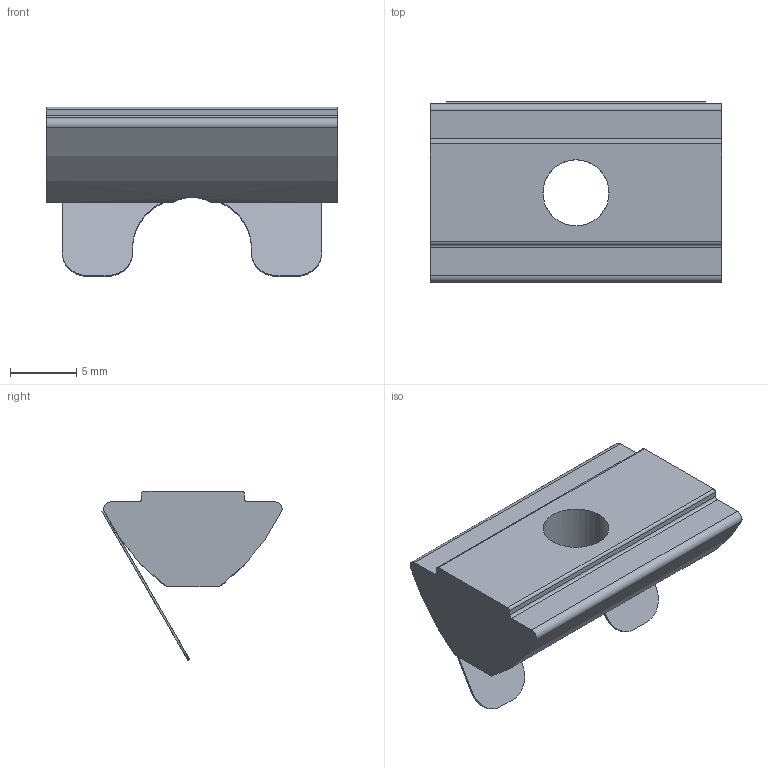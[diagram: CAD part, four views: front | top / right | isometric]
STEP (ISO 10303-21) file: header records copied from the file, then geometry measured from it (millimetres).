
FILE_DESCRIPTION (( 'STEP AP203' ), '1' );
FILE_NAME ('0108NSM6STF.STEP', '2024-03-05T09:08:59', ( 'Windows-Benutzer' ), ( '' ), 'SwSTEP 2.0', 'SolidWorks 2023', '' );
FILE_SCHEMA (( 'CONFIG_CONTROL_DESIGN' ));
Length unit declared in the file: millimetre
Products named in the file (1): 0108NSM6STF
Bounding box: 22 x 13.63 x 12.8 mm (x, y, z)
Volume: 1422.3 mm3; surface area: 1284.7 mm2
Topology: 1 solids, 1 shells, 35 faces, 102 edges, 68 vertices
Faces by surface type: plane 19, cylinder 16
Entity records: 1277 total; most frequent: CARTESIAN_POINT 232, DIRECTION 210, ORIENTED_EDGE 204, EDGE_CURVE 102, AXIS2_PLACEMENT_3D 74, VERTEX_POINT 68, VECTOR 62, LINE 62
